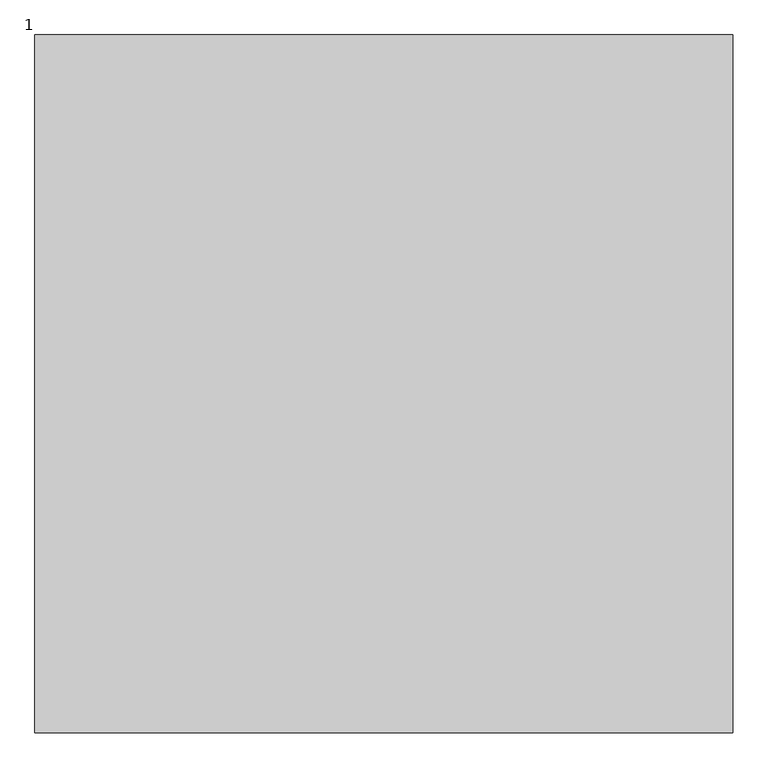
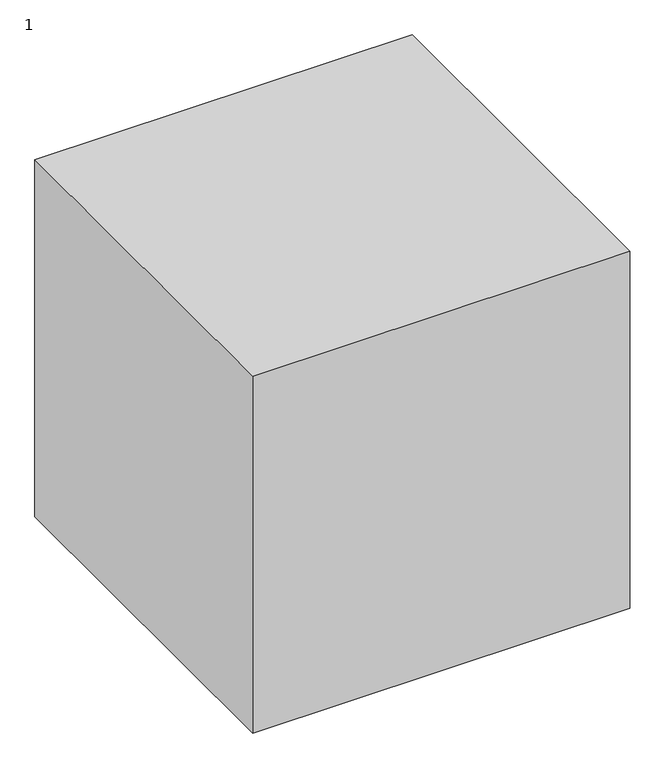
"""IFC4 building model written with IfcOpenShell, lengths in millimetres: proxy geometry, 1222111 : 1."""

from ifc_helpers import new_model, si_unit, origin, origin_with_axes, place, context, project, spatial, polyline, outline, extrude, source, transform, mapped, element, save


def proxy_1_50e8c4e9(model_context):
    return source(origin(), model_context, "Body", "SweptSolid", [
        extrude(outline(polyline([(3692.0243292, 11335.2294472), (3692.0243292, 10335.2294472), (2692.0243292, 10335.2294472), (2692.0243292, 11335.2294472), (3692.0243292, 11335.2294472)])), origin_with_axes(), (0.0, 0.0, 1.0), 1000.0),
    ])


if __name__ == "__main__":
    model = new_model("IFC4")
    model_context = context("Model", 3, world=origin())
    ifc_project = project(units=[si_unit("LENGTHUNIT", "METRE", prefix="MILLI")], contexts=[model_context])
    site = spatial("IfcSite", under=ifc_project)
    building = spatial("IfcBuilding", under=site)
    placement = place(None, origin())
    proxy_1_shape = proxy_1_50e8c4e9(model_context)
    element("IfcBuildingElementProxy", 1, Name="1222111 : 1", ObjectType="1222111 : 1", at=placement, inside=building, context=model_context, shape_type="MappedRepresentation", body=[
        mapped(proxy_1_shape, transform((0.0, 0.0, 0.0), x_axis=(1.0, 0.0, 0.0), y_axis=(0.0, 1.0, 0.0), z_axis=(0.0, 0.0, 1.0))),
    ])
    save(model, "model.ifc")
